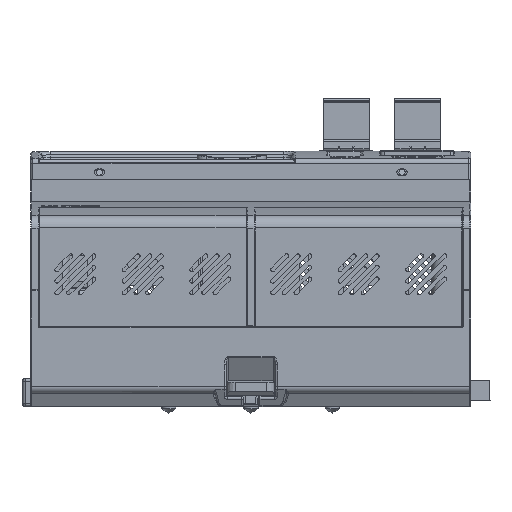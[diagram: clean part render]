
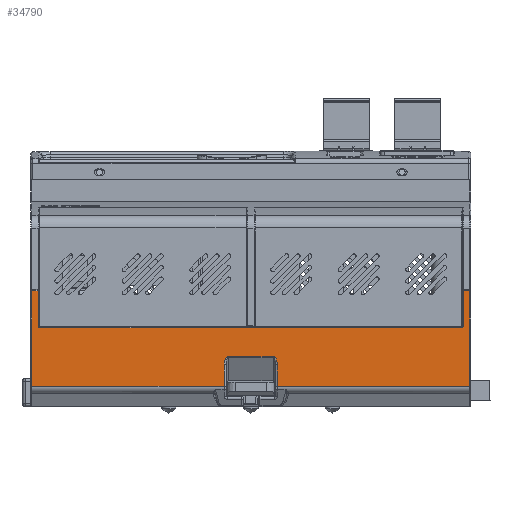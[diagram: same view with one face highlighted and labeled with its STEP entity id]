
A CAD part, front view. The second image highlights one B-rep face of the part: STEP entity #34790.
In plain terms, the highlighted planar face has unit normal (0, -1, 0).
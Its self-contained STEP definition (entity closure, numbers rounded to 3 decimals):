
#1678 = CARTESIAN_POINT ( 'NONE',  ( -6.5, -56., -18.304 ) ) ;
#4565 = VERTEX_POINT ( 'NONE', #171268 ) ;
#5080 = VERTEX_POINT ( 'NONE', #140776 ) ;
#6436 = ORIENTED_EDGE ( 'NONE', *, *, #183328, .T. ) ;
#6816 = AXIS2_PLACEMENT_3D ( 'NONE', #10597, #111278, #26122 ) ;
#10597 = CARTESIAN_POINT ( 'NONE',  ( 53.8, -56., 0. ) ) ;
#11816 = PLANE ( 'NONE',  #6816 ) ;
#12219 = LINE ( 'NONE', #108315, #158864 ) ;
#12284 = DIRECTION ( 'NONE',  ( 1., 0., 0. ) ) ;
#12662 = EDGE_CURVE ( 'NONE', #102954, #136719, #174036, .T. ) ;
#12781 = CARTESIAN_POINT ( 'NONE',  ( -6.5, -56., -23.574 ) ) ;
#13881 = ORIENTED_EDGE ( 'NONE', *, *, #119379, .T. ) ;
#16740 = AXIS2_PLACEMENT_3D ( 'NONE', #115983, #156917, #71867 ) ;
#16969 = EDGE_CURVE ( 'NONE', #5080, #104431, #179181, .T. ) ;
#17495 = LINE ( 'NONE', #76371, #159528 ) ;
#17593 = CARTESIAN_POINT ( 'NONE',  ( -53.6, -56., -23.574 ) ) ;
#19327 = CIRCLE ( 'NONE', #49588, 0.4 ) ;
#22385 = VECTOR ( 'NONE', #167905, 1000. ) ;
#22498 = DIRECTION ( 'NONE',  ( -1., 0., 0. ) ) ;
#22585 = ORIENTED_EDGE ( 'NONE', *, *, #148210, .F. ) ;
#22681 = LINE ( 'NONE', #109043, #162732 ) ;
#24160 = CARTESIAN_POINT ( 'NONE',  ( 52., -56., -8.8 ) ) ;
#26122 = DIRECTION ( 'NONE',  ( 0., 0., 1. ) ) ;
#27520 = CARTESIAN_POINT ( 'NONE',  ( 53.8, -56., -0.2 ) ) ;
#28157 = DIRECTION ( 'NONE',  ( 1., 0., 0. ) ) ;
#28365 = FACE_OUTER_BOUND ( 'NONE', #156032, .T. ) ;
#33238 = CARTESIAN_POINT ( 'NONE',  ( -52., -56., 0. ) ) ;
#34423 = CARTESIAN_POINT ( 'NONE',  ( 5.5, -56., -16.304 ) ) ;
#34790 = ADVANCED_FACE ( 'NONE', ( #28365 ), #11816, .F. ) ;
#36069 = EDGE_CURVE ( 'NONE', #118292, #121925, #22681, .T. ) ;
#38064 = CARTESIAN_POINT ( 'NONE',  ( 53.8, -56., -0.2 ) ) ;
#39658 = EDGE_CURVE ( 'NONE', #181424, #137797, #96576, .T. ) ;
#40312 = EDGE_CURVE ( 'NONE', #4565, #81947, #95434, .T. ) ;
#41195 = CARTESIAN_POINT ( 'NONE',  ( 53.6, -56., 0. ) ) ;
#43397 = CARTESIAN_POINT ( 'NONE',  ( 5.5, -56., -16.304 ) ) ;
#45069 = ORIENTED_EDGE ( 'NONE', *, *, #79572, .T. ) ;
#46198 = VECTOR ( 'NONE', #28157, 1000. ) ;
#47097 = EDGE_CURVE ( 'NONE', #54886, #64532, #124361, .T. ) ;
#48870 = DIRECTION ( 'NONE',  ( 0., 0., 1. ) ) ;
#49588 = AXIS2_PLACEMENT_3D ( 'NONE', #65807, #51538, #81289 ) ;
#50834 = LINE ( 'NONE', #105465, #159575 ) ;
#51538 = DIRECTION ( 'NONE',  ( 0., -1., 0. ) ) ;
#52778 = CARTESIAN_POINT ( 'NONE',  ( -6.5, -56., -18.304 ) ) ;
#54667 = CARTESIAN_POINT ( 'NONE',  ( 53.8, -56., -23.574 ) ) ;
#54886 = VERTEX_POINT ( 'NONE', #34423 ) ;
#57758 = CARTESIAN_POINT ( 'NONE',  ( 6.5, -56., -17.132 ) ) ;
#57759 = CARTESIAN_POINT ( 'NONE',  ( -5.5, -56., -16.304 ) ) ;
#58614 = ORIENTED_EDGE ( 'NONE', *, *, #172090, .F. ) ;
#61005 = ORIENTED_EDGE ( 'NONE', *, *, #39658, .T. ) ;
#62777 = DIRECTION ( 'NONE',  ( 0., 0., -1. ) ) ;
#64454 = CARTESIAN_POINT ( 'NONE',  ( -53.6, -56., -0.2 ) ) ;
#64532 = VERTEX_POINT ( 'NONE', #155468 ) ;
#65807 = CARTESIAN_POINT ( 'NONE',  ( 51.6, -56., -8.8 ) ) ;
#65950 = ORIENTED_EDGE ( 'NONE', *, *, #47097, .T. ) ;
#66099 = EDGE_CURVE ( 'NONE', #104431, #164783, #69121, .T. ) ;
#66585 = VECTOR ( 'NONE', #22498, 1000. ) ;
#69121 = LINE ( 'NONE', #27520, #22385 ) ;
#71867 = DIRECTION ( 'NONE',  ( 0., 0., 1. ) ) ;
#71967 = VERTEX_POINT ( 'NONE', #164416 ) ;
#72560 = CARTESIAN_POINT ( 'NONE',  ( -6.086, -56., -16.304 ) ) ;
#73510 = ORIENTED_EDGE ( 'NONE', *, *, #40312, .T. ) ;
#76371 = CARTESIAN_POINT ( 'NONE',  ( 52., -56., -9. ) ) ;
#79173 = VECTOR ( 'NONE', #157399, 1000. ) ;
#79572 = EDGE_CURVE ( 'NONE', #136719, #54886, #84011, .T. ) ;
#81289 = DIRECTION ( 'NONE',  ( 0., 0., 1. ) ) ;
#81947 = VERTEX_POINT ( 'NONE', #116809 ) ;
#84011 = LINE ( 'NONE', #87276, #46198 ) ;
#84055 = ORIENTED_EDGE ( 'NONE', *, *, #16969, .T. ) ;
#87276 = CARTESIAN_POINT ( 'NONE',  ( 53.8, -56., -16.304 ) ) ;
#87417 = DIRECTION ( 'NONE',  ( 0., 0., -1. ) ) ;
#88361 = LINE ( 'NONE', #153540, #121735 ) ;
#91397 = EDGE_CURVE ( 'NONE', #164783, #118292, #12219, .T. ) ;
#94747 = DIRECTION ( 'NONE',  ( 1., 0., 0. ) ) ;
#95434 = LINE ( 'NONE', #41195, #168698 ) ;
#96576 = LINE ( 'NONE', #169543, #134268 ) ;
#101241 = CARTESIAN_POINT ( 'NONE',  ( -6.5, -56., -17.132 ) ) ;
#102580 = CARTESIAN_POINT ( 'NONE',  ( -51.6, -56., -9.2 ) ) ;
#102954 = VERTEX_POINT ( 'NONE', #52778 ) ;
#104368 = LINE ( 'NONE', #38064, #66585 ) ;
#104431 = VERTEX_POINT ( 'NONE', #174802 ) ;
#105465 = CARTESIAN_POINT ( 'NONE',  ( -6.5, -56., 0. ) ) ;
#107107 = DIRECTION ( 'NONE',  ( 0., 0., -1. ) ) ;
#108315 = CARTESIAN_POINT ( 'NONE',  ( -53.6, -56., -23.574 ) ) ;
#109043 = CARTESIAN_POINT ( 'NONE',  ( 53.8, -56., -23.574 ) ) ;
#109341 = ORIENTED_EDGE ( 'NONE', *, *, #66099, .T. ) ;
#111278 = DIRECTION ( 'NONE',  ( 0., 1., 0. ) ) ;
#112608 = DIRECTION ( 'NONE',  ( 0., 0., 1. ) ) ;
#113477 = VERTEX_POINT ( 'NONE', #24160 ) ;
#115983 = CARTESIAN_POINT ( 'NONE',  ( -51.6, -56., -8.8 ) ) ;
#115984 = LINE ( 'NONE', #54667, #169216 ) ;
#116809 = CARTESIAN_POINT ( 'NONE',  ( 53.6, -56., -0.2 ) ) ;
#118292 = VERTEX_POINT ( 'NONE', #17593 ) ;
#119379 = EDGE_CURVE ( 'NONE', #121925, #102954, #50834, .T. ) ;
#121500 = CIRCLE ( 'NONE', #16740, 0.4 ) ;
#121735 = VECTOR ( 'NONE', #87417, 1000. ) ;
#121925 = VERTEX_POINT ( 'NONE', #12781 ) ;
#124361 =( BOUNDED_CURVE ( )  B_SPLINE_CURVE ( 3, ( #43397, #183808, #57758, #142220 ),
 .UNSPECIFIED., .F., .T. ) 
 B_SPLINE_CURVE_WITH_KNOTS ( ( 4, 4 ),
 ( 3.142, 4.712 ),
 .UNSPECIFIED. ) 
 CURVE ( )  GEOMETRIC_REPRESENTATION_ITEM ( )  RATIONAL_B_SPLINE_CURVE ( ( 1., 0.805, 0.805, 1. ) ) 
 REPRESENTATION_ITEM ( '' )  );
#134268 = VECTOR ( 'NONE', #157065, 1000. ) ;
#136719 = VERTEX_POINT ( 'NONE', #184349 ) ;
#137797 = VERTEX_POINT ( 'NONE', #102580 ) ;
#138952 = CARTESIAN_POINT ( 'NONE',  ( 51.6, -56., -9.2 ) ) ;
#140776 = CARTESIAN_POINT ( 'NONE',  ( -52., -56., -8.8 ) ) ;
#142220 = CARTESIAN_POINT ( 'NONE',  ( 6.5, -56., -18.304 ) ) ;
#142905 = ORIENTED_EDGE ( 'NONE', *, *, #156678, .T. ) ;
#144182 = VERTEX_POINT ( 'NONE', #148040 ) ;
#147999 = ORIENTED_EDGE ( 'NONE', *, *, #152960, .T. ) ;
#148040 = CARTESIAN_POINT ( 'NONE',  ( 6.5, -56., -23.574 ) ) ;
#148210 = EDGE_CURVE ( 'NONE', #5080, #137797, #121500, .T. ) ;
#152960 = EDGE_CURVE ( 'NONE', #71967, #113477, #17495, .T. ) ;
#153540 = CARTESIAN_POINT ( 'NONE',  ( 6.5, -56., 0. ) ) ;
#155468 = CARTESIAN_POINT ( 'NONE',  ( 6.5, -56., -18.304 ) ) ;
#156032 = EDGE_LOOP ( 'NONE', ( #73510, #6436, #147999, #58614, #61005, #22585, #84055, #109341, #179867, #182102, #13881, #182047, #45069, #65950, #175260, #142905 ) ) ;
#156678 = EDGE_CURVE ( 'NONE', #144182, #4565, #115984, .T. ) ;
#156917 = DIRECTION ( 'NONE',  ( 0., -1., 0. ) ) ;
#157065 = DIRECTION ( 'NONE',  ( -1., 0., 0. ) ) ;
#157399 = DIRECTION ( 'NONE',  ( 0., 0., 1. ) ) ;
#158864 = VECTOR ( 'NONE', #107107, 1000. ) ;
#159245 = EDGE_CURVE ( 'NONE', #64532, #144182, #88361, .T. ) ;
#159528 = VECTOR ( 'NONE', #62777, 1000. ) ;
#159575 = VECTOR ( 'NONE', #48870, 1000. ) ;
#162732 = VECTOR ( 'NONE', #94747, 1000. ) ;
#164416 = CARTESIAN_POINT ( 'NONE',  ( 52., -56., -0.2 ) ) ;
#164783 = VERTEX_POINT ( 'NONE', #64454 ) ;
#167905 = DIRECTION ( 'NONE',  ( -1., 0., 0. ) ) ;
#168698 = VECTOR ( 'NONE', #112608, 1000. ) ;
#169216 = VECTOR ( 'NONE', #12284, 1000. ) ;
#169543 = CARTESIAN_POINT ( 'NONE',  ( -51.8, -56., -9.2 ) ) ;
#171268 = CARTESIAN_POINT ( 'NONE',  ( 53.6, -56., -23.574 ) ) ;
#172090 = EDGE_CURVE ( 'NONE', #181424, #113477, #19327, .T. ) ;
#174036 =( BOUNDED_CURVE ( )  B_SPLINE_CURVE ( 3, ( #1678, #101241, #72560, #57759 ),
 .UNSPECIFIED., .F., .F. ) 
 B_SPLINE_CURVE_WITH_KNOTS ( ( 4, 4 ),
 ( 1.571, 3.142 ),
 .UNSPECIFIED. ) 
 CURVE ( )  GEOMETRIC_REPRESENTATION_ITEM ( )  RATIONAL_B_SPLINE_CURVE ( ( 1., 0.805, 0.805, 1. ) ) 
 REPRESENTATION_ITEM ( '' )  );
#174802 = CARTESIAN_POINT ( 'NONE',  ( -52., -56., -0.2 ) ) ;
#175260 = ORIENTED_EDGE ( 'NONE', *, *, #159245, .T. ) ;
#179181 = LINE ( 'NONE', #33238, #79173 ) ;
#179867 = ORIENTED_EDGE ( 'NONE', *, *, #91397, .T. ) ;
#181424 = VERTEX_POINT ( 'NONE', #138952 ) ;
#182047 = ORIENTED_EDGE ( 'NONE', *, *, #12662, .T. ) ;
#182102 = ORIENTED_EDGE ( 'NONE', *, *, #36069, .T. ) ;
#183328 = EDGE_CURVE ( 'NONE', #81947, #71967, #104368, .T. ) ;
#183808 = CARTESIAN_POINT ( 'NONE',  ( 6.086, -56., -16.304 ) ) ;
#184349 = CARTESIAN_POINT ( 'NONE',  ( -5.5, -56., -16.304 ) ) ;
